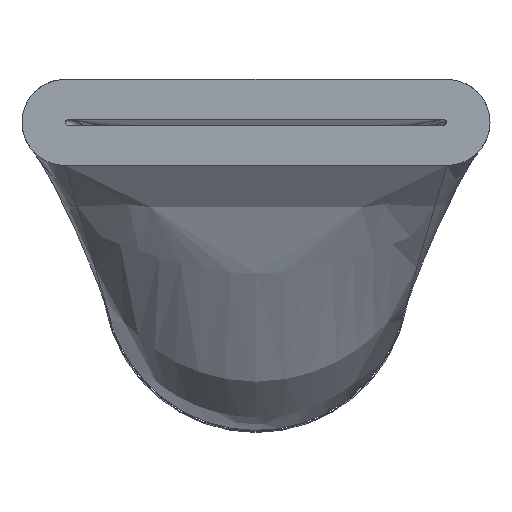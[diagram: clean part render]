
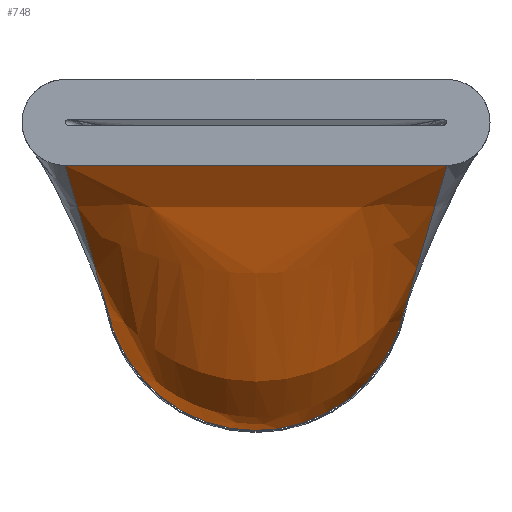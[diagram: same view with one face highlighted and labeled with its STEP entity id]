
A CAD part, left-side view. The second image highlights one B-rep face of the part: STEP entity #748.
In plain terms, the highlighted free-form (B-spline) face has degree [3, 3] with [19, 4] control points.
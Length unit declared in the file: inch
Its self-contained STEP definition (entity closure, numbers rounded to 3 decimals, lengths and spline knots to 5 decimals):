
#2=CARTESIAN_POINT('',(-0.198,-0.1845,
0.11));
#3=CARTESIAN_POINT('',(-0.132,-0.16927,
0.05824));
#4=CARTESIAN_POINT('',(-0.08525,-0.1388,
-0.04528));
#5=CARTESIAN_POINT('',(0.,-0.1388,
-0.04528));
#7=CARTESIAN_POINT('',(0.,0.1388,-0.04528));
#8=CARTESIAN_POINT('',(0.00022,0.13801,-0.04771));
#9=CARTESIAN_POINT('',(-0.00062,0.1362,
-0.05281));
#10=CARTESIAN_POINT('',(-0.00012,0.13274,
-0.06104));
#11=CARTESIAN_POINT('',(0.00016,0.12836,
-0.06982));
#12=CARTESIAN_POINT('',(0.00006,0.12286,
-0.07915));
#13=CARTESIAN_POINT('',(-0.00005,0.11601,
-0.08893));
#14=CARTESIAN_POINT('',(0.00001,0.10755,
-0.09907));
#15=CARTESIAN_POINT('',(-0.00002,0.09713,
-0.10936));
#16=CARTESIAN_POINT('',(0.00002,0.0844,
-0.11955));
#17=CARTESIAN_POINT('',(0.,0.06893,
-0.12918));
#18=CARTESIAN_POINT('',(-0.00001,0.05031,
-0.13763));
#19=CARTESIAN_POINT('',(0.00001,0.02812,
-0.14396));
#20=CARTESIAN_POINT('',(0.,0.00204,
-0.14689));
#21=CARTESIAN_POINT('',(0.00001,-0.02795,
-0.14443));
#22=CARTESIAN_POINT('',(-0.00002,-0.05811,
-0.13516));
#23=CARTESIAN_POINT('',(0.00001,-0.08526,
-0.11986));
#24=CARTESIAN_POINT('',(0.00003,-0.10855,
-0.09928));
#25=CARTESIAN_POINT('',(-0.00019,-0.12713,
-0.07402));
#26=CARTESIAN_POINT('',(0.00087,-0.13562,
-0.05504));
#27=CARTESIAN_POINT('',(0.,-0.1388,
-0.04528));
#115=DIRECTION('',(0.,1.,0.));
#116=VECTOR('',#115,0.369);
#117=CARTESIAN_POINT('',(-0.198,-0.1845,
0.11));
#118=LINE('',#117,#116);
#167=CARTESIAN_POINT('',(-0.198,0.1845,
0.11));
#168=CARTESIAN_POINT('',(-0.132,0.16927,
0.05824));
#169=CARTESIAN_POINT('',(-0.08525,0.1388,
-0.04528));
#170=CARTESIAN_POINT('',(0.,0.1388,
-0.04528));
#589=VERTEX_POINT('',#7);
#590=VERTEX_POINT('',#27);
#594=CARTESIAN_POINT('',(-0.198,-0.1845,
0.11));
#595=CARTESIAN_POINT('',(-0.198,0.1845,
0.11));
#596=VERTEX_POINT('',#594);
#597=VERTEX_POINT('',#595);
#661=CARTESIAN_POINT('',(-0.20004,-0.18868,
0.11155));
#662=CARTESIAN_POINT('',(-0.13225,-0.17253,
0.06081));
#663=CARTESIAN_POINT('',(-0.08467,-0.13884,
-0.04524));
#664=CARTESIAN_POINT('',(0.00274,-0.13974,
-0.04229));
#665=CARTESIAN_POINT('',(-0.20004,-0.17895,
0.11163));
#666=CARTESIAN_POINT('',(-0.13223,-0.16525,
0.05827));
#667=CARTESIAN_POINT('',(-0.08588,-0.13687,
-0.05162));
#668=CARTESIAN_POINT('',(0.00277,-0.13741,
-0.04999));
#669=CARTESIAN_POINT('',(-0.20004,-0.16118,
0.11177));
#670=CARTESIAN_POINT('',(-0.13219,-0.1514,
0.05346));
#671=CARTESIAN_POINT('',(-0.08794,-0.13548,
-0.0569));
#672=CARTESIAN_POINT('',(0.00284,-0.13165,
-0.06454));
#673=CARTESIAN_POINT('',(-0.20004,-0.13603,
0.11198));
#674=CARTESIAN_POINT('',(-0.13213,-0.13053,
0.04696));
#675=CARTESIAN_POINT('',(-0.09093,-0.13002,
-0.07182));
#676=CARTESIAN_POINT('',(0.00294,-0.11967,
-0.08461));
#677=CARTESIAN_POINT('',(-0.20004,-0.11257,
0.11215));
#678=CARTESIAN_POINT('',(-0.13207,-0.10994,
0.04127));
#679=CARTESIAN_POINT('',(-0.09382,-0.12239,
-0.08677));
#680=CARTESIAN_POINT('',(0.00303,-0.10509,
-0.10215));
#681=CARTESIAN_POINT('',(-0.20004,-0.08955,
0.11231));
#682=CARTESIAN_POINT('',(-0.132,-0.08873,
0.03633));
#683=CARTESIAN_POINT('',(-0.09696,-0.11059,
-0.10336));
#684=CARTESIAN_POINT('',(0.00313,-0.08773,
-0.11743));
#685=CARTESIAN_POINT('',(-0.20004,-0.06688,
0.11244));
#686=CARTESIAN_POINT('',(-0.13193,-0.06697,
0.03235));
#687=CARTESIAN_POINT('',(-0.10049,-0.09314,
-0.12019));
#688=CARTESIAN_POINT('',(0.00324,-0.06792,
-0.12988));
#689=CARTESIAN_POINT('',(-0.20004,-0.04445,
0.11253));
#690=CARTESIAN_POINT('',(-0.13186,-0.04484,
0.02944));
#691=CARTESIAN_POINT('',(-0.1043,-0.06869,
-0.1356));
#692=CARTESIAN_POINT('',(0.00336,-0.04629,
-0.13908));
#693=CARTESIAN_POINT('',(-0.20004,-0.02219,
0.11259));
#694=CARTESIAN_POINT('',(-0.13179,-0.02247,
0.02769));
#695=CARTESIAN_POINT('',(-0.10758,-0.0369,
-0.14687));
#696=CARTESIAN_POINT('',(0.00346,-0.02343,
-0.14467));
#697=CARTESIAN_POINT('',(-0.20004,0.,
0.11261));
#698=CARTESIAN_POINT('',(-0.13176,0.,
0.02709));
#699=CARTESIAN_POINT('',(-0.10895,0.,
-0.15112));
#700=CARTESIAN_POINT('',(0.00351,0.,
-0.14658));
#701=CARTESIAN_POINT('',(-0.20004,0.02219,
0.11259));
#702=CARTESIAN_POINT('',(-0.13179,0.02247,
0.02769));
#703=CARTESIAN_POINT('',(-0.10758,0.0369,
-0.14687));
#704=CARTESIAN_POINT('',(0.00346,0.02343,
-0.14467));
#705=CARTESIAN_POINT('',(-0.20004,0.04445,
0.11253));
#706=CARTESIAN_POINT('',(-0.13186,0.04484,
0.02944));
#707=CARTESIAN_POINT('',(-0.1043,0.0687,
-0.1356));
#708=CARTESIAN_POINT('',(0.00336,0.04629,
-0.13908));
#709=CARTESIAN_POINT('',(-0.20004,0.06688,
0.11244));
#710=CARTESIAN_POINT('',(-0.13193,0.06698,
0.03235));
#711=CARTESIAN_POINT('',(-0.10049,0.09314,
-0.12019));
#712=CARTESIAN_POINT('',(0.00324,0.06792,
-0.12988));
#713=CARTESIAN_POINT('',(-0.20004,0.08955,
0.11231));
#714=CARTESIAN_POINT('',(-0.132,0.08873,
0.03633));
#715=CARTESIAN_POINT('',(-0.09696,0.11059,
-0.10336));
#716=CARTESIAN_POINT('',(0.00313,0.08773,
-0.11743));
#717=CARTESIAN_POINT('',(-0.20004,0.11257,
0.11215));
#718=CARTESIAN_POINT('',(-0.13207,0.10993,
0.04127));
#719=CARTESIAN_POINT('',(-0.09382,0.12239,
-0.08677));
#720=CARTESIAN_POINT('',(0.00303,0.10509,-0.10215));
#721=CARTESIAN_POINT('',(-0.20004,0.13603,
0.11198));
#722=CARTESIAN_POINT('',(-0.13213,0.13053,
0.04696));
#723=CARTESIAN_POINT('',(-0.09093,0.13002,
-0.07182));
#724=CARTESIAN_POINT('',(0.00294,0.11967,
-0.08461));
#725=CARTESIAN_POINT('',(-0.20004,0.16121,
0.11177));
#726=CARTESIAN_POINT('',(-0.13219,0.15142,
0.05347));
#727=CARTESIAN_POINT('',(-0.08794,0.13549,
-0.05689));
#728=CARTESIAN_POINT('',(0.00284,0.13166,
-0.06453));
#729=CARTESIAN_POINT('',(-0.20004,0.17896,
0.11163));
#730=CARTESIAN_POINT('',(-0.13223,0.16526,
0.05827));
#731=CARTESIAN_POINT('',(-0.08588,0.13687,
-0.05162));
#732=CARTESIAN_POINT('',(0.00277,0.13742,
-0.04997));
#733=CARTESIAN_POINT('',(-0.20004,0.18871,
0.11155));
#734=CARTESIAN_POINT('',(-0.13225,0.17255,
0.06081));
#735=CARTESIAN_POINT('',(-0.08467,0.13884,
-0.04523));
#736=CARTESIAN_POINT('',(0.00274,0.13975,
-0.04227));
#737=B_SPLINE_SURFACE_WITH_KNOTS('',3,3,((#661,#662,#663,#664),(#665,#666,#667,
#668),(#669,#670,#671,#672),(#673,#674,#675,#676),(#677,#678,#679,#680),(#681,
#682,#683,#684),(#685,#686,#687,#688),(#689,#690,#691,#692),(#693,#694,#695,
#696),(#697,#698,#699,#700),(#701,#702,#703,#704),(#705,#706,#707,#708),(#709,
#710,#711,#712),(#713,#714,#715,#716),(#717,#718,#719,#720),(#721,#722,#723,
#724),(#725,#726,#727,#728),(#729,#730,#731,#732),(#733,#734,#735,#736)),
.UNSPECIFIED.,.F.,.F.,.F.,(4,1,1,1,1,1,1,1,1,1,1,1,1,1,1,1,4),(4,4),(
-0.00916,0.0625,0.125,0.1875,0.25,0.3125,0.375,0.4375,
0.5,0.5625,0.625,0.6875,0.75,0.8125,0.875,0.9375,
1.00921),(-0.0026,0.2562),.UNSPECIFIED.);
#739=ORIENTED_EDGE('',*,*,#738,.F.);
#741=ORIENTED_EDGE('',*,*,#740,.F.);
#743=ORIENTED_EDGE('',*,*,#742,.F.);
#745=ORIENTED_EDGE('',*,*,#744,.T.);
#746=EDGE_LOOP('',(#739,#741,#743,#745));
#747=FACE_OUTER_BOUND('',#746,.F.);
#6=B_SPLINE_CURVE_WITH_KNOTS('',3,(#2,#3,#4,#5),.UNSPECIFIED.,.F.,.F.,(4,4),(
0.,1.),.UNSPECIFIED.);
#28=B_SPLINE_CURVE_WITH_KNOTS('',3,(#7,#8,#9,#10,#11,#12,#13,#14,#15,#16,#17,
#18,#19,#20,#21,#22,#23,#24,#25,#26,#27),.UNSPECIFIED.,.F.,.F.,(4,1,1,1,1,1,1,1,
1,1,1,1,1,1,1,1,1,1,4),(0.,0.05556,0.11111,
0.16667,0.22222,0.27778,0.33333,
0.38889,0.44444,0.5,0.55556,0.61111,
0.66667,0.72222,0.77778,0.83333,
0.88889,0.94444,1.),.UNSPECIFIED.);
#171=B_SPLINE_CURVE_WITH_KNOTS('',3,(#167,#168,#169,#170),.UNSPECIFIED.,.F.,.F.,
(4,4),(0.,1.),.UNSPECIFIED.);
#738=EDGE_CURVE('',#589,#590,#28,.T.);
#740=EDGE_CURVE('',#597,#589,#171,.T.);
#742=EDGE_CURVE('',#596,#597,#118,.T.);
#744=EDGE_CURVE('',#596,#590,#6,.T.);
#748=ADVANCED_FACE('',(#747),#737,.T.);
